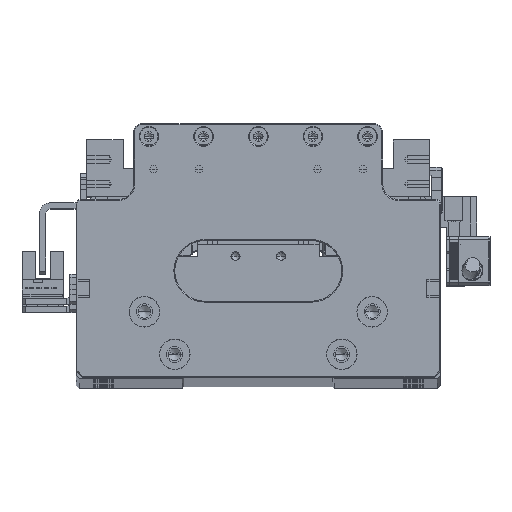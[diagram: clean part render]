
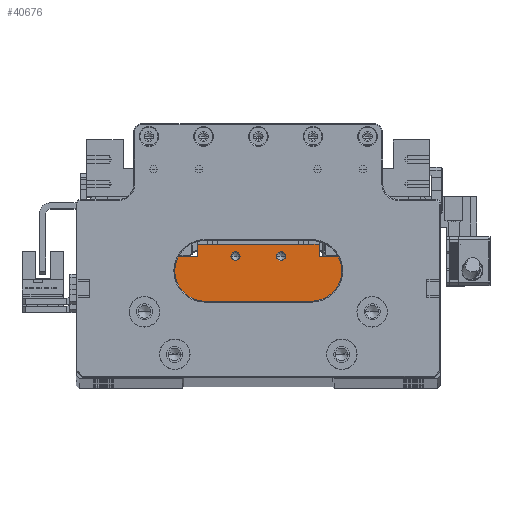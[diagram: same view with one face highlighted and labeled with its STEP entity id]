
A CAD part, top view. The second image highlights one B-rep face of the part: STEP entity #40676.
In plain terms, the highlighted planar face has unit normal (0, 0, 1).
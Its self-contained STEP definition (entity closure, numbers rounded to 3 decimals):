
#3147 = EDGE_CURVE ( 'NONE', #100838, #30716, #36756, .T. ) ;
#3448 = ORIENTED_EDGE ( 'NONE', *, *, #9282, .F. ) ;
#9282 = EDGE_CURVE ( 'NONE', #128701, #74546, #86835, .T. ) ;
#10274 = EDGE_LOOP ( 'NONE', ( #3448, #85251 ) ) ;
#13304 = CIRCLE ( 'NONE', #72744, 1.525 ) ;
#19007 = CARTESIAN_POINT ( 'NONE',  ( 5.806, 6.304, 411.036 ) ) ;
#19966 = VECTOR ( 'NONE', #90286, 1000. ) ;
#20537 = LINE ( 'NONE', #59855, #98884 ) ;
#20804 = CARTESIAN_POINT ( 'NONE',  ( -9.194, -12.996, 411.036 ) ) ;
#20988 = CARTESIAN_POINT ( 'NONE',  ( 18.306, -1.296, 411.036 ) ) ;
#23068 = CARTESIAN_POINT ( 'NONE',  ( -9.194, 6.304, 411.036 ) ) ;
#24880 = CARTESIAN_POINT ( 'NONE',  ( -10.719, 6.304, 411.036 ) ) ;
#25121 = CARTESIAN_POINT ( 'NONE',  ( -9.194, -1.296, 411.036 ) ) ;
#25882 = LINE ( 'NONE', #20988, #57561 ) ;
#26215 = VERTEX_POINT ( 'NONE', #24880 ) ;
#29708 = DIRECTION ( 'NONE',  ( 1., 0., 0. ) ) ;
#30578 = VECTOR ( 'NONE', #44911, 1000. ) ;
#30716 = VERTEX_POINT ( 'NONE', #57418 ) ;
#31350 = DIRECTION ( 'NONE',  ( 1., 0., 0. ) ) ;
#31625 = CARTESIAN_POINT ( 'NONE',  ( -9.194, 6.304, 411.036 ) ) ;
#32524 = CARTESIAN_POINT ( 'NONE',  ( -21.694, -1.296, 411.036 ) ) ;
#33539 = EDGE_CURVE ( 'NONE', #91190, #78986, #81273, .T. ) ;
#33713 = DIRECTION ( 'NONE',  ( 1., 0., 0. ) ) ;
#35154 = CARTESIAN_POINT ( 'NONE',  ( 18.306, 6.204, 411.036 ) ) ;
#35173 = DIRECTION ( 'NONE',  ( 0., 0., 1. ) ) ;
#36756 = LINE ( 'NONE', #127392, #118488 ) ;
#36799 = FACE_OUTER_BOUND ( 'NONE', #128646, .T. ) ;
#40676 = ADVANCED_FACE ( 'NONE', ( #36799, #65170, #121893 ), #46543, .F. ) ;
#42207 = DIRECTION ( 'NONE',  ( 1., 0., 0. ) ) ;
#42325 = DIRECTION ( 'NONE',  ( 1., 0., 0. ) ) ;
#42845 = ORIENTED_EDGE ( 'NONE', *, *, #64538, .F. ) ;
#44911 = DIRECTION ( 'NONE',  ( 0., 1., 0. ) ) ;
#46536 = EDGE_CURVE ( 'NONE', #97316, #26215, #85787, .T. ) ;
#46543 = PLANE ( 'NONE',  #116217 ) ;
#49592 = VECTOR ( 'NONE', #42207, 1000. ) ;
#49697 = EDGE_CURVE ( 'NONE', #91190, #131431, #133956, .T. ) ;
#53295 = AXIS2_PLACEMENT_3D ( 'NONE', #19007, #93547, #29708 ) ;
#53622 = ORIENTED_EDGE ( 'NONE', *, *, #33539, .T. ) ;
#54792 = CARTESIAN_POINT ( 'NONE',  ( -9.194, 10.204, 411.036 ) ) ;
#56659 = ORIENTED_EDGE ( 'NONE', *, *, #104474, .F. ) ;
#57418 = CARTESIAN_POINT ( 'NONE',  ( 28.206, 6.204, 411.036 ) ) ;
#57421 = CARTESIAN_POINT ( 'NONE',  ( 18.306, 10.204, 411.036 ) ) ;
#57561 = VECTOR ( 'NONE', #95551, 1000. ) ;
#59822 = VERTEX_POINT ( 'NONE', #113181 ) ;
#59855 = CARTESIAN_POINT ( 'NONE',  ( -9.194, 6.204, 411.036 ) ) ;
#60522 = CARTESIAN_POINT ( 'NONE',  ( -31.594, 6.204, 411.036 ) ) ;
#64538 = EDGE_CURVE ( 'NONE', #59822, #112604, #91173, .T. ) ;
#65044 = DIRECTION ( 'NONE',  ( 1., 0., 0. ) ) ;
#65170 = FACE_BOUND ( 'NONE', #10274, .T. ) ;
#67927 = EDGE_LOOP ( 'NONE', ( #89206, #105730 ) ) ;
#67969 = DIRECTION ( 'NONE',  ( -1., 0., 0. ) ) ;
#70565 = DIRECTION ( 'NONE',  ( 1., 0., 0. ) ) ;
#72744 = AXIS2_PLACEMENT_3D ( 'NONE', #99071, #35173, #109762 ) ;
#73318 = LINE ( 'NONE', #79613, #19966 ) ;
#74546 = VERTEX_POINT ( 'NONE', #110784 ) ;
#74972 = EDGE_CURVE ( 'NONE', #74546, #128701, #13304, .T. ) ;
#77293 = CARTESIAN_POINT ( 'NONE',  ( -21.694, 10.204, 411.036 ) ) ;
#78986 = VERTEX_POINT ( 'NONE', #89307 ) ;
#79613 = CARTESIAN_POINT ( 'NONE',  ( 28.206, -1.296, 411.036 ) ) ;
#81273 = LINE ( 'NONE', #20804, #49592 ) ;
#83198 = LINE ( 'NONE', #54792, #136597 ) ;
#83588 = CIRCLE ( 'NONE', #90320, 1.525 ) ;
#84797 = ORIENTED_EDGE ( 'NONE', *, *, #100736, .F. ) ;
#85251 = ORIENTED_EDGE ( 'NONE', *, *, #74972, .F. ) ;
#85787 = CIRCLE ( 'NONE', #125617, 1.525 ) ;
#85916 = CARTESIAN_POINT ( 'NONE',  ( -7.669, 6.304, 411.036 ) ) ;
#86835 = CIRCLE ( 'NONE', #53295, 1.525 ) ;
#89206 = ORIENTED_EDGE ( 'NONE', *, *, #46536, .F. ) ;
#89307 = CARTESIAN_POINT ( 'NONE',  ( 28.206, -12.996, 411.036 ) ) ;
#90286 = DIRECTION ( 'NONE',  ( 0., -1., 0. ) ) ;
#90320 = AXIS2_PLACEMENT_3D ( 'NONE', #31625, #106201, #42325 ) ;
#91173 = LINE ( 'NONE', #32524, #137925 ) ;
#91190 = VERTEX_POINT ( 'NONE', #136379 ) ;
#93547 = DIRECTION ( 'NONE',  ( 0., 0., 1. ) ) ;
#95551 = DIRECTION ( 'NONE',  ( 0., -1., 0. ) ) ;
#96308 = ORIENTED_EDGE ( 'NONE', *, *, #49697, .F. ) ;
#97316 = VERTEX_POINT ( 'NONE', #85916 ) ;
#97619 = DIRECTION ( 'NONE',  ( 0., 0., 1. ) ) ;
#98884 = VECTOR ( 'NONE', #70565, 1000. ) ;
#98919 = EDGE_CURVE ( 'NONE', #26215, #97316, #83588, .T. ) ;
#99071 = CARTESIAN_POINT ( 'NONE',  ( 5.806, 6.304, 411.036 ) ) ;
#99258 = ORIENTED_EDGE ( 'NONE', *, *, #100287, .F. ) ;
#100287 = EDGE_CURVE ( 'NONE', #30716, #78986, #73318, .T. ) ;
#100736 = EDGE_CURVE ( 'NONE', #112604, #117157, #83198, .T. ) ;
#100838 = VERTEX_POINT ( 'NONE', #35154 ) ;
#101034 = ORIENTED_EDGE ( 'NONE', *, *, #3147, .F. ) ;
#104474 = EDGE_CURVE ( 'NONE', #117157, #100838, #25882, .T. ) ;
#105730 = ORIENTED_EDGE ( 'NONE', *, *, #98919, .F. ) ;
#106050 = EDGE_CURVE ( 'NONE', #131431, #59822, #20537, .T. ) ;
#106201 = DIRECTION ( 'NONE',  ( 0., 0., 1. ) ) ;
#108717 = CARTESIAN_POINT ( 'NONE',  ( -31.594, -1.296, 411.036 ) ) ;
#109762 = DIRECTION ( 'NONE',  ( 1., 0., 0. ) ) ;
#110784 = CARTESIAN_POINT ( 'NONE',  ( 4.281, 6.304, 411.036 ) ) ;
#112604 = VERTEX_POINT ( 'NONE', #77293 ) ;
#113181 = CARTESIAN_POINT ( 'NONE',  ( -21.694, 6.204, 411.036 ) ) ;
#113642 = ORIENTED_EDGE ( 'NONE', *, *, #106050, .F. ) ;
#116217 = AXIS2_PLACEMENT_3D ( 'NONE', #25121, #131860, #67969 ) ;
#117157 = VERTEX_POINT ( 'NONE', #57421 ) ;
#118488 = VECTOR ( 'NONE', #31350, 1000. ) ;
#121893 = FACE_BOUND ( 'NONE', #67927, .T. ) ;
#125617 = AXIS2_PLACEMENT_3D ( 'NONE', #23068, #97619, #33713 ) ;
#126661 = CARTESIAN_POINT ( 'NONE',  ( 7.331, 6.304, 411.036 ) ) ;
#127392 = CARTESIAN_POINT ( 'NONE',  ( -9.194, 6.204, 411.036 ) ) ;
#128596 = DIRECTION ( 'NONE',  ( 0., 1., 0. ) ) ;
#128646 = EDGE_LOOP ( 'NONE', ( #113642, #96308, #53622, #99258, #101034, #56659, #84797, #42845 ) ) ;
#128701 = VERTEX_POINT ( 'NONE', #126661 ) ;
#131431 = VERTEX_POINT ( 'NONE', #60522 ) ;
#131860 = DIRECTION ( 'NONE',  ( 0., 0., -1. ) ) ;
#133956 = LINE ( 'NONE', #108717, #30578 ) ;
#136379 = CARTESIAN_POINT ( 'NONE',  ( -31.594, -12.996, 411.036 ) ) ;
#136597 = VECTOR ( 'NONE', #65044, 1000. ) ;
#137925 = VECTOR ( 'NONE', #128596, 1000. ) ;
